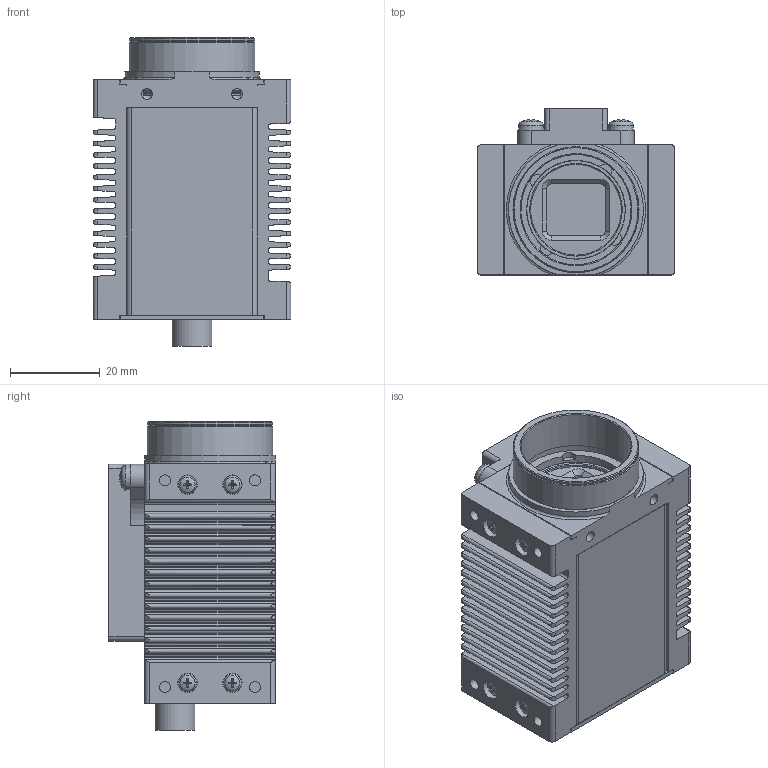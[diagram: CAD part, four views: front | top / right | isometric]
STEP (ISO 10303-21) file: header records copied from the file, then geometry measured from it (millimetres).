
FILE_DESCRIPTION(/* description */ (''),/* implementation_level */ '2;1');
FILE_NAME(/* name */ 'D:\HiDrive\1_Konstruktion\1_KUNDEN\TIS\139-12_135-12_124-11_121-11_FPGA-Kamera\121-15-5_FPGA-Kam-RJ45_1Z-Sens_13,3_Kühlrippen\IPT und STEP Ableitungen für Kunden\121-15-53\121-15-53_FPGA_C-FP_RJ45_1Zoll_19,0_ER-12,4_Kühlrip.stp',/* time_stamp */ '2017-10-20T17:39:32+02:00',/* author */ ('khw'),/* organization */ (''),/* preprocessor_version */ 'ST-DEVELOPER v16.5',/* originating_system */ 'Autodesk Inventor 2017',/* authorisation */ '');
FILE_SCHEMA (('AUTOMOTIVE_DESIGN { 1 0 10303 214 3 1 1 }'));
Length unit declared in the file: millimetre
Products named in the file (4): 3_121-15-53_FPGA_C-FP_RJ45_1Zoll_19,0_ER-12,4_m.Trip; 2_121-15-53_FPGA_C-FP_RJ45_1Zoll_19,0_ER-12,4__Ableit v.1; 121-11-2-00-02(TripodAdapter); ISO 7045 - M3 x 6 - 4.8 - H
Assembly tree (5 placements, depth 2):
  3_121-15-53_FPGA_C-FP_RJ45_1Zoll_19,0_ER-12,4_m.Trip
    2_121-15-53_FPGA_C-FP_RJ45_1Zoll_19,0_ER-12,4__Ableit v.1
    121-11-2-00-02(TripodAdapter)
    ISO 7045 - M3 x 6 - 4.8 - H  x3
Bounding box: 44 x 37 x 68.55 mm (x, y, z)
Volume: 34207.5 mm3; surface area: 36779.7 mm2
Topology: 6 solids, 24 shells, 1413 faces, 3849 edges, 2524 vertices
Faces by surface type: plane 669, cylinder 394, cone 235, torus 82, sphere 19, bspline 14
Full cylindrical faces by diameter (mm): 0.45 x8, 0.6 x6, 0.8 x6, 1 x1, 1.183 x4, 1.221 x2, 1.567 x18, 1.755 x4, 1.783 x8, 2 x8, 2.2 x4, 2.3 x8, 2.4 x2, 2.459 x13, 2.729 x3, 3 x3, 3.3 x3, 3.5 x4, 3.8 x4, 4.3 x8, 4.917 x2, 4.978 x1, 6 x1, 7.76 x1, 8.85 x1, 11 x1, 12 x1, 20.2 x1, 21.9 x1, 22 x2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
Entity records: 44413 total; most frequent: CARTESIAN_POINT 9751, DIRECTION 7018, ORIENTED_EDGE 6720, EDGE_CURVE 3360, AXIS2_PLACEMENT_3D 2660, VERTEX_POINT 2329, EDGE_LOOP 1703, LINE 1698
